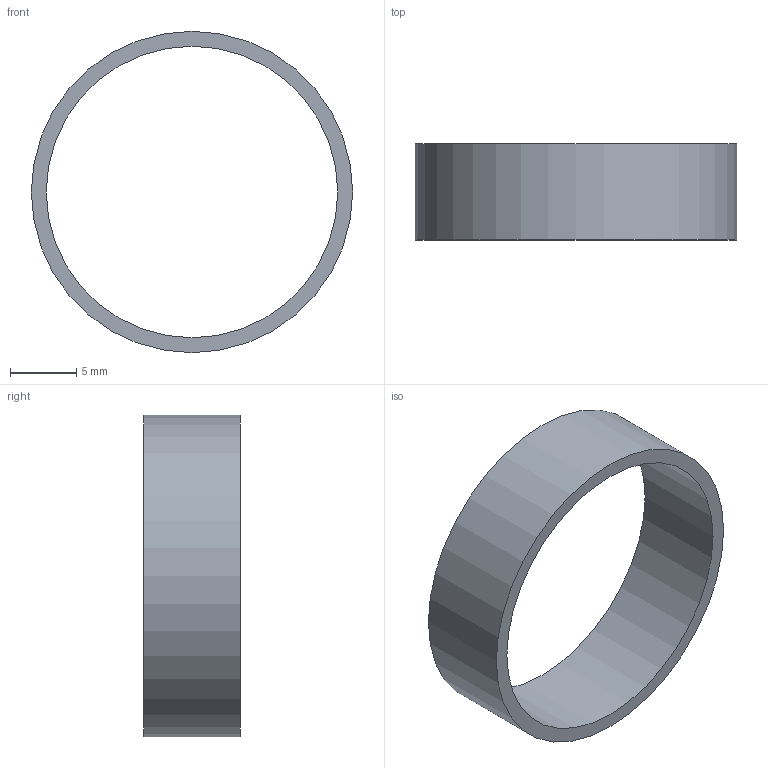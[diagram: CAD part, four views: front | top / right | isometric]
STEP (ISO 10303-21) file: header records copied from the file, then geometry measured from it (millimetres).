
FILE_DESCRIPTION(/* description */ ('STEP AP242 Edition 2','CAx-IF Rec.Pracs.---Representation and Presentation of Product Manufacturing Information (PMI)---4.0---2014-10-13','CAx-IF Rec.Pracs.---3D Tessellated Geometry---0.4---2014-09-14','2;1','CAx-IF Rec.Pracs.---User Defined Attributes---1.5---2016-08-15'),/* implementation_level */ '2;1');
FILE_NAME(/* name */ 'outering - Part 1',/* time_stamp */ '2026-09-12T07:36:36Z',/* author */ (''),/* organization */ (''),/* preprocessor_version */ 'ST-DEVELOPER v20',/* originating_system */ 'ONSHAPE BY PTC INC, 1.220',/* authorisation */ ' ');
FILE_SCHEMA (('AP242_MANAGED_MODEL_BASED_3D_ENGINEERING_MIM_LF { 1 0 10303 442 3 1 4 }'));
Length unit declared in the file: metre
Products named in the file (1): Part 1
Bounding box: 24.25 x 7.25 x 24.25 mm (x, y, z)
Volume: 592.5 mm3; surface area: 1216.9 mm2
Topology: 1 solids, 1 shells, 4 faces, 6 edges, 4 vertices
Faces by surface type: cylinder 2, plane 2
Full cylindrical faces by diameter (mm): 22 x1, 24.25 x1
Entity records: 110 total; most frequent: DIRECTION 18, CARTESIAN_POINT 13, AXIS2_PLACEMENT_3D 9, ORIENTED_EDGE 8, EDGE_LOOP 8, FACE_BOUND 8, EDGE_CURVE 4, VERTEX_POINT 4
